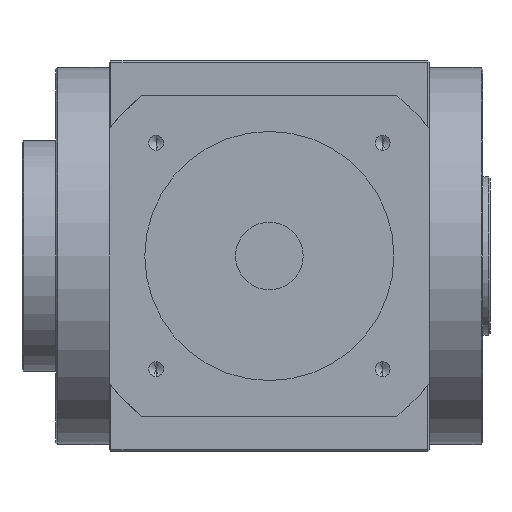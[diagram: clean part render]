
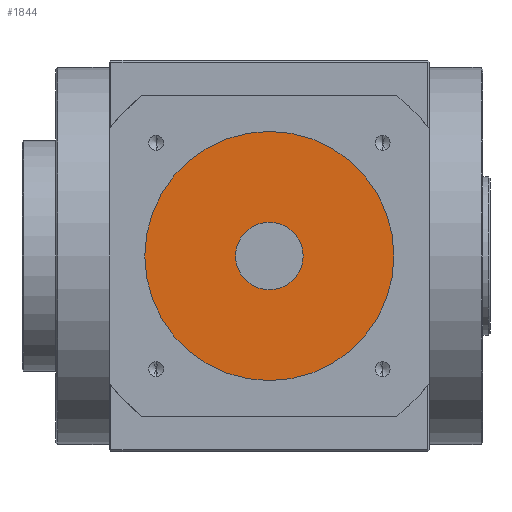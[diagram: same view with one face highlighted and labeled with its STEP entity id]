
A CAD part, front view. The second image highlights one B-rep face of the part: STEP entity #1844.
In plain terms, the highlighted planar face has unit normal (0, -1, 0).
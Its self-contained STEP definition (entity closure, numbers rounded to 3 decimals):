
#117 = CARTESIAN_POINT ( 'NONE',  ( 0., -161., 0. ) ) ;
#208 = VERTEX_POINT ( 'NONE', #1451 ) ;
#419 = AXIS2_PLACEMENT_3D ( 'NONE', #117, #4516, #5116 ) ;
#575 = DIRECTION ( 'NONE',  ( 0., 0., -1. ) ) ;
#1115 = DIRECTION ( 'NONE',  ( 0., -1., 0. ) ) ;
#1331 = ORIENTED_EDGE ( 'NONE', *, *, #2650, .T. ) ;
#1451 = CARTESIAN_POINT ( 'NONE',  ( 0., -161., 35. ) ) ;
#1561 = CARTESIAN_POINT ( 'NONE',  ( 0., -161., 0. ) ) ;
#1844 = ADVANCED_FACE ( 'NONE', ( #6878, #2307 ), #6744, .T. ) ;
#2003 = AXIS2_PLACEMENT_3D ( 'NONE', #3017, #1115, #4836 ) ;
#2138 = VERTEX_POINT ( 'NONE', #3453 ) ;
#2307 = FACE_BOUND ( 'NONE', #7274, .T. ) ;
#2650 = EDGE_CURVE ( 'NONE', #4123, #2138, #5047, .T. ) ;
#2836 = DIRECTION ( 'NONE',  ( 0., 1., 0. ) ) ;
#3017 = CARTESIAN_POINT ( 'NONE',  ( 0., -161., 0. ) ) ;
#3234 = ORIENTED_EDGE ( 'NONE', *, *, #7442, .T. ) ;
#3453 = CARTESIAN_POINT ( 'NONE',  ( 0., -161., 9.5 ) ) ;
#3482 = DIRECTION ( 'NONE',  ( 0., 0., -1. ) ) ;
#3538 = VERTEX_POINT ( 'NONE', #5870 ) ;
#3633 = DIRECTION ( 'NONE',  ( 0., -1., 0. ) ) ;
#3802 = AXIS2_PLACEMENT_3D ( 'NONE', #1561, #2836, #3482 ) ;
#4123 = VERTEX_POINT ( 'NONE', #5697 ) ;
#4203 = CARTESIAN_POINT ( 'NONE',  ( 0., -161., 0. ) ) ;
#4516 = DIRECTION ( 'NONE',  ( 0., 1., 0. ) ) ;
#4618 = EDGE_CURVE ( 'NONE', #2138, #4123, #8167, .T. ) ;
#4836 = DIRECTION ( 'NONE',  ( 0., 0., -1. ) ) ;
#5047 = CIRCLE ( 'NONE', #3802, 9.5 ) ;
#5116 = DIRECTION ( 'NONE',  ( 0., 0., -1. ) ) ;
#5200 = CARTESIAN_POINT ( 'NONE',  ( 0., -161., 0. ) ) ;
#5697 = CARTESIAN_POINT ( 'NONE',  ( 0., -161., -9.5 ) ) ;
#5767 = AXIS2_PLACEMENT_3D ( 'NONE', #4203, #3633, #575 ) ;
#5870 = CARTESIAN_POINT ( 'NONE',  ( 0., -161., -35. ) ) ;
#5975 = AXIS2_PLACEMENT_3D ( 'NONE', #5200, #6441, #7698 ) ;
#6404 = CIRCLE ( 'NONE', #5975, 35. ) ;
#6441 = DIRECTION ( 'NONE',  ( 0., -1., 0. ) ) ;
#6451 = EDGE_LOOP ( 'NONE', ( #3234, #6459 ) ) ;
#6459 = ORIENTED_EDGE ( 'NONE', *, *, #6583, .T. ) ;
#6583 = EDGE_CURVE ( 'NONE', #208, #3538, #6404, .T. ) ;
#6744 = PLANE ( 'NONE',  #2003 ) ;
#6878 = FACE_OUTER_BOUND ( 'NONE', #6451, .T. ) ;
#7169 = CIRCLE ( 'NONE', #5767, 35. ) ;
#7274 = EDGE_LOOP ( 'NONE', ( #1331, #7693 ) ) ;
#7442 = EDGE_CURVE ( 'NONE', #3538, #208, #7169, .T. ) ;
#7693 = ORIENTED_EDGE ( 'NONE', *, *, #4618, .T. ) ;
#7698 = DIRECTION ( 'NONE',  ( 0., 0., -1. ) ) ;
#8167 = CIRCLE ( 'NONE', #419, 9.5 ) ;
